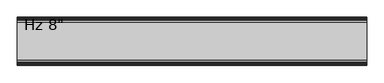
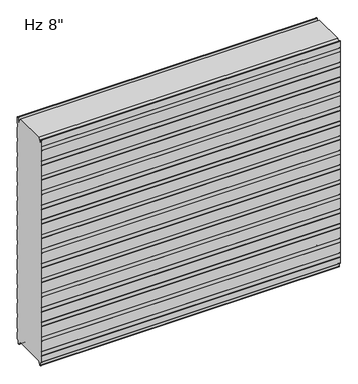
"""IFC4 building model written with IfcOpenShell, lengths in millimetres: plate geometry."""

from ifc_helpers import new_model, si_unit, frame, origin, place, context, project, spatial, polyline, circle_curve, source, transform, mapped, element, save
from ifc_brep_helpers import plane_surface, cylinder_surface, revolved_surface, advanced_brep


def plate_c6cde25f(model_context):
    return source(origin(), model_context, "Body", "AdvancedBrep", [
        advanced_brep(
        [(-730.0, -201.0088405, 1097.7830195), (-730.0, -201.0088405, 1117.5660142), (-730.0, -202.1999956, 1118.6385351), (-730.0, -202.1999956, 1150.8100652), (-730.0, -200.2227271, 1152.7873337), (-730.0, -199.1806285, 1152.7873337), (-730.0, -197.20336, 1150.8100652), (-730.0, -197.20336, 1136.6216802), (-730.0, -194.6154835, 1134.0338036), (-730.0, -190.2950653, 1134.0338036), (-730.0, -189.7060718, 1133.4253365), (-730.0, -189.7060718, 1131.0482432), (-730.0, -188.7065979, 1131.0482432), (-730.0, -188.7065979, 1136.4905123), (-730.0, -179.4490821, 1152.525), (-730.0, -23.7509179, 1152.525), (-730.0, -14.4934021, 1136.4905123), (-730.0, -14.4934021, 1131.0482432), (-730.0, -13.4939282, 1131.0482432), (-730.0, -13.4939282, 1133.4253365), (-730.0, -12.9049347, 1134.0338036), (-730.0, -8.5845165, 1134.0338036), (-730.0, -5.99664, 1136.6216802), (-730.0, -5.99664, 1150.8100652), (-730.0, -4.0193715, 1152.7873337), (-730.0, -2.9772729, 1152.7873337), (-730.0, -1.0000044, 1150.8100652), (-730.0, -1.0000044, 1118.6385351), (-730.0, -2.1911595, 1117.5660142), (-730.0, -2.1911595, 1097.7830195), (-730.0, -1.0, 1096.7104947), (-730.0, -1.0, 1043.0159187), (-730.0, -2.1911595, 1041.9433939), (-730.0, -2.1911595, 1022.1603992), (-730.0, -1.0, 1021.0878744), (-730.0, -1.0, 967.3932985), (-730.0, -2.1911595, 966.3207736), (-730.0, -2.1911595, 946.537779), (-730.0, -1.0, 945.4652541), (-730.0, -1.0, 891.7706782), (-730.0, -2.1911595, 890.6981534), (-730.0, -2.1911595, 870.9151587), (-730.0, -1.0, 869.8426339), (-730.0, -1.0, 816.148058), (-730.0, -2.1911595, 815.0755331), (-730.0, -2.1911595, 795.2925384), (-730.0, -1.0, 794.2200136), (-730.0, -1.0, 740.5254377), (-730.0, -2.1911595, 739.4529129), (-730.0, -2.1911595, 719.6699182), (-730.0, -1.0, 718.5973933), (-730.0, -1.0, 664.9028174), (-730.0, -2.1911595, 663.8302926), (-730.0, -2.1911595, 644.0472979), (-730.0, -1.0, 642.9747731), (-730.0, -1.0, 589.2801972), (-730.0, -2.1911595, 588.2076723), (-730.0, -2.1911595, 568.4246776), (-730.0, -1.0, 567.3521528), (-730.0, -1.0, 513.6575769), (-730.0, -2.1911595, 512.5850521), (-730.0, -2.1911595, 492.8020574), (-730.0, -1.0, 491.7295325), (-730.0, -1.0, 438.0349566), (-730.0, -2.1911595, 436.9624318), (-730.0, -2.1911595, 417.1794371), (-730.0, -1.0, 416.1069123), (-730.0, -1.0, 362.4123364), (-730.0, -2.1911595, 361.3398115), (-730.0, -2.1911595, 341.5568169), (-730.0, -1.0, 340.484292), (-730.0, -1.0, 286.7897161), (-730.0, -2.1911595, 285.7171913), (-730.0, -2.1911595, 265.9341966), (-730.0, -1.0, 264.8616718), (-730.0, -1.0, 211.1670958), (-730.0, -2.1911595, 210.094571), (-730.0, -2.1911595, 190.3115763), (-730.0, -1.0, 189.2390515), (-730.0, -1.0, 135.5444756), (-730.0, -2.1911595, 134.4719507), (-730.0, -2.1911595, 114.6889561), (-730.0, -1.0, 113.6164312), (-730.0, -1.0, 59.9218553), (-730.0, -2.1911595, 58.8493305), (-730.0, -2.1911595, 39.0663358), (-730.0, -1.0000109, 37.993811), (-730.0, -1.0000109, 5.8272239), (-730.0, -2.9772849, 3.8499499), (-730.0, -5.2691749, 3.8499499), (-730.0, -9.246442, -0.1273173), (-730.0, -9.246442, -15.7237417), (-730.0, -9.8343189, -16.3116186), (-730.0, -12.9058679, -16.3116186), (-730.0, -13.4937446, -15.723742), (-730.0, -13.4937446, -13.3687064), (-730.0, -14.4937446, -13.3687064), (-730.0, -14.4937446, -15.6582851), (-730.0, -23.7509179, 0.0), (-730.0, -179.4490865, 0.0), (-730.0, -188.7062554, -15.6582851), (-730.0, -188.7062554, -13.3687064), (-730.0, -189.7062554, -13.3687064), (-730.0, -189.7062554, -15.723742), (-730.0, -190.2941321, -16.3116186), (-730.0, -193.3656811, -16.3116186), (-730.0, -193.953558, -15.7237417), (-730.0, -193.953558, -0.1273173), (-730.0, -197.9308251, 3.8499499), (-730.0, -200.2227151, 3.8499499), (-730.0, -202.1999891, 5.8272239), (-730.0, -202.1999891, 37.993811), (-730.0, -201.0088405, 39.0663358), (-730.0, -201.0088405, 58.8493305), (-730.0, -202.2, 59.9218553), (-730.0, -202.2, 113.6164312), (-730.0, -201.0088405, 114.6889561), (-730.0, -201.0088405, 134.4719507), (-730.0, -202.2, 135.5444756), (-730.0, -202.2, 189.2390515), (-730.0, -201.0088405, 190.3115763), (-730.0, -201.0088405, 210.094571), (-730.0, -202.2, 211.1670958), (-730.0, -202.2, 264.8616718), (-730.0, -201.0088405, 265.9341966), (-730.0, -201.0088405, 285.7171913), (-730.0, -202.2, 286.7897161), (-730.0, -202.2, 340.484292), (-730.0, -201.0088405, 341.5568169), (-730.0, -201.0088405, 361.3398115), (-730.0, -202.2, 362.4123364), (-730.0, -202.2, 416.1069123), (-730.0, -201.0088405, 417.1794371), (-730.0, -201.0088405, 436.9624318), (-730.0, -202.2, 438.0349566), (-730.0, -202.2, 491.7295325), (-730.0, -201.0088405, 492.8020574), (-730.0, -201.0088405, 512.5850521), (-730.0, -202.2, 513.6575769), (-730.0, -202.2, 567.3521528), (-730.0, -201.0088405, 568.4246776), (-730.0, -201.0088405, 588.2076723), (-730.0, -202.2, 589.2801972), (-730.0, -202.2, 642.9747731), (-730.0, -201.0088405, 644.0472979), (-730.0, -201.0088405, 663.8302926), (-730.0, -202.2, 664.9028174), (-730.0, -202.2, 718.5973933), (-730.0, -201.0088405, 719.6699182), (-730.0, -201.0088405, 739.4529129), (-730.0, -202.2, 740.5254377), (-730.0, -202.2, 794.2200136), (-730.0, -201.0088405, 795.2925384), (-730.0, -201.0088405, 815.0755331), (-730.0, -202.2, 816.148058), (-730.0, -202.2, 869.8426339), (-730.0, -201.0088405, 870.9151587), (-730.0, -201.0088405, 890.6981534), (-730.0, -202.2, 891.7706782), (-730.0, -202.2, 945.4652541), (-730.0, -201.0088405, 946.537779), (-730.0, -201.0088405, 966.3207736), (-730.0, -202.2, 967.3932985), (-730.0, -202.2, 1021.0878744), (-730.0, -201.0088405, 1022.1603992), (-730.0, -201.0088405, 1041.9433939), (-730.0, -202.2, 1043.0159187), (-730.0, -202.2, 1096.7104947), (730.0, -201.0088405, 1097.7830195), (730.0, -202.2, 1096.7104947), (730.0, -202.2, 1043.0159187), (730.0, -201.0088405, 1041.9433939), (730.0, -201.0088405, 1022.1603992), (730.0, -202.2, 1021.0878744), (730.0, -202.2, 967.3932985), (730.0, -201.0088405, 966.3207736), (730.0, -201.0088405, 946.537779), (730.0, -202.2, 945.4652541), (730.0, -202.2, 891.7706782), (730.0, -201.0088405, 890.6981534), (730.0, -201.0088405, 870.9151587), (730.0, -202.2, 869.8426339), (730.0, -202.2, 816.148058), (730.0, -201.0088405, 815.0755331), (730.0, -201.0088405, 795.2925384), (730.0, -202.2, 794.2200136), (730.0, -202.2, 740.5254377), (730.0, -201.0088405, 739.4529129), (730.0, -201.0088405, 719.6699182), (730.0, -202.2, 718.5973933), (730.0, -202.2, 664.9028174), (730.0, -201.0088405, 663.8302926), (730.0, -201.0088405, 644.0472979), (730.0, -202.2, 642.9747731), (730.0, -202.2, 589.2801972), (730.0, -201.0088405, 588.2076723), (730.0, -201.0088405, 568.4246776), (730.0, -202.2, 567.3521528), (730.0, -202.2, 513.6575769), (730.0, -201.0088405, 512.5850521), (730.0, -201.0088405, 492.8020574), (730.0, -202.2, 491.7295325), (730.0, -202.2, 438.0349566), (730.0, -201.0088405, 436.9624318), (730.0, -201.0088405, 417.1794371), (730.0, -202.2, 416.1069123), (730.0, -202.2, 362.4123364), (730.0, -201.0088405, 361.3398115), (730.0, -201.0088405, 341.5568169), (730.0, -202.2, 340.484292), (730.0, -202.2, 286.7897161), (730.0, -201.0088405, 285.7171913), (730.0, -201.0088405, 265.9341966), (730.0, -202.2, 264.8616718), (730.0, -202.2, 211.1670958), (730.0, -201.0088405, 210.094571), (730.0, -201.0088405, 190.3115763), (730.0, -202.2, 189.2390515), (730.0, -202.2, 135.5444756), (730.0, -201.0088405, 134.4719507), (730.0, -201.0088405, 114.6889561), (730.0, -202.2, 113.6164312), (730.0, -202.2, 59.9218553), (730.0, -201.0088405, 58.8493305), (730.0, -201.0088405, 39.0663358), (730.0, -202.1999891, 37.993811), (730.0, -202.1999891, 5.8272239), (730.0, -200.2227151, 3.8499499), (730.0, -197.9308251, 3.8499499), (730.0, -193.953558, -0.1273173), (730.0, -193.953558, -15.7237417), (730.0, -193.3656811, -16.3116186), (730.0, -190.2941321, -16.3116186), (730.0, -189.7062554, -15.723742), (730.0, -189.7062554, -13.3687064), (730.0, -188.7062554, -13.3687064), (730.0, -188.7062554, -15.6582851), (730.0, -179.4490821, 0.0), (730.0, -23.7509179, 0.0), (730.0, -14.4937446, -15.6582851), (730.0, -14.4937446, -13.3687064), (730.0, -13.4937446, -13.3687064), (730.0, -13.4937446, -15.723742), (730.0, -12.9058679, -16.3116186), (730.0, -9.8343189, -16.3116186), (730.0, -9.246442, -15.7237417), (730.0, -9.246442, -0.1273173), (730.0, -5.2691749, 3.8499499), (730.0, -2.9772849, 3.8499499), (730.0, -1.0000109, 5.8272239), (730.0, -1.0000109, 37.993811), (730.0, -2.1911595, 39.0663358), (730.0, -2.1911595, 58.8493305), (730.0, -1.0, 59.9218553), (730.0, -1.0, 113.6164312), (730.0, -2.1911595, 114.6889561), (730.0, -2.1911595, 134.4719507), (730.0, -1.0, 135.5444756), (730.0, -1.0, 189.2390515), (730.0, -2.1911595, 190.3115763), (730.0, -2.1911595, 210.094571), (730.0, -1.0, 211.1670958), (730.0, -1.0, 264.8616718), (730.0, -2.1911595, 265.9341966), (730.0, -2.1911595, 285.7171913), (730.0, -1.0, 286.7897161), (730.0, -1.0, 340.484292), (730.0, -2.1911595, 341.5568169), (730.0, -2.1911595, 361.3398115), (730.0, -1.0, 362.4123364), (730.0, -1.0, 416.1069123), (730.0, -2.1911595, 417.1794371), (730.0, -2.1911595, 436.9624318), (730.0, -1.0, 438.0349566), (730.0, -1.0, 491.7295325), (730.0, -2.1911595, 492.8020574), (730.0, -2.1911595, 512.5850521), (730.0, -1.0, 513.6575769), (730.0, -1.0, 567.3521528), (730.0, -2.1911595, 568.4246776), (730.0, -2.1911595, 588.2076723), (730.0, -1.0, 589.2801972), (730.0, -1.0, 642.9747731), (730.0, -2.1911595, 644.0472979), (730.0, -2.1911595, 663.8302926), (730.0, -1.0, 664.9028174), (730.0, -1.0, 718.5973933), (730.0, -2.1911595, 719.6699182), (730.0, -2.1911595, 739.4529129), (730.0, -1.0, 740.5254377), (730.0, -1.0, 794.2200136), (730.0, -2.1911595, 795.2925384), (730.0, -2.1911595, 815.0755331), (730.0, -1.0, 816.148058), (730.0, -1.0, 869.8426339), (730.0, -2.1911595, 870.9151587), (730.0, -2.1911595, 890.6981534), (730.0, -1.0, 891.7706782), (730.0, -1.0, 945.4652541), (730.0, -2.1911595, 946.537779), (730.0, -2.1911595, 966.3207736), (730.0, -1.0, 967.3932985), (730.0, -1.0, 1021.0878744), (730.0, -2.1911595, 1022.1603992), (730.0, -2.1911595, 1041.9433939), (730.0, -1.0, 1043.0159187), (730.0, -1.0, 1096.7104947), (730.0, -2.1911595, 1097.7830195), (730.0, -2.1911595, 1117.5660142), (730.0, -1.0000044, 1118.6385351), (730.0, -1.0000044, 1150.8100652), (730.0, -2.9772729, 1152.7873337), (730.0, -4.0193715, 1152.7873337), (730.0, -5.99664, 1150.8100652), (730.0, -5.99664, 1136.6216802), (730.0, -8.5845165, 1134.0338036), (730.0, -12.9049347, 1134.0338036), (730.0, -13.4939282, 1133.4253365), (730.0, -13.4939282, 1131.0482432), (730.0, -14.4934021, 1131.0482432), (730.0, -14.4934021, 1136.4905123), (730.0, -23.7509179, 1152.525), (730.0, -179.4490865, 1152.525), (730.0, -188.7065979, 1136.4905123), (730.0, -188.7065979, 1131.0482432), (730.0, -189.7060718, 1131.0482432), (730.0, -189.7060718, 1133.4253365), (730.0, -190.2950653, 1134.0338036), (730.0, -194.6154835, 1134.0338036), (730.0, -197.20336, 1136.6216802), (730.0, -197.20336, 1150.8100652), (730.0, -199.1806285, 1152.7873337), (730.0, -200.2227271, 1152.7873337), (730.0, -202.1999956, 1150.8100652), (730.0, -202.1999956, 1118.6385351), (730.0, -201.0088405, 1117.5660142)],
        [
            (0, 1),
            (1, 2),
            (2, 3),
            (3, 4, circle_curve(frame((-730.0, -200.2227271, 1150.8100652), z_axis=(-1.0, 0.0, 0.0), x_axis=(0.0, 0.0, -1.0)), 1.9772685)),
            (4, 5),
            (5, 6, circle_curve(frame((-730.0, -199.1806285, 1150.8100652), z_axis=(-1.0, 0.0, 0.0), x_axis=(0.0, 0.0, -1.0)), 1.9772685)),
            (6, 7),
            (7, 8, circle_curve(frame((-730.0, -194.6154835, 1136.6216802), z_axis=(1.0, 0.0, 0.0), x_axis=(0.0, 0.0, -1.0)), 2.5878765)),
            (8, 9),
            (9, 10, circle_curve(frame((-730.0, -190.2950653, 1133.4444985), z_axis=(-1.0, 0.0, 0.0), x_axis=(0.0, 0.0, -1.0)), 0.5893051)),
            (10, 11),
            (11, 12),
            (12, 13),
            (13, 14),
            (14, 15),
            (15, 16),
            (16, 17),
            (17, 18),
            (18, 19),
            (19, 20, circle_curve(frame((-730.0, -12.9049347, 1133.4444985), z_axis=(-1.0, 0.0, 0.0), x_axis=(0.0, 1.0, 0.0)), 0.5893051)),
            (20, 21),
            (21, 22, circle_curve(frame((-730.0, -8.5845165, 1136.6216802), z_axis=(1.0, 0.0, 0.0), x_axis=(0.0, 1.0, 0.0)), 2.5878765)),
            (22, 23),
            (23, 24, circle_curve(frame((-730.0, -4.0193715, 1150.8100652), z_axis=(-1.0, 0.0, 0.0), x_axis=(0.0, 1.0, 0.0)), 1.9772685)),
            (24, 25),
            (25, 26, circle_curve(frame((-730.0, -2.9772729, 1150.8100652), z_axis=(-1.0, 0.0, 0.0), x_axis=(0.0, 1.0, 0.0)), 1.9772685)),
            (26, 27),
            (27, 28),
            (28, 29),
            (29, 30),
            (30, 31),
            (31, 32),
            (32, 33),
            (33, 34),
            (34, 35),
            (35, 36),
            (36, 37),
            (37, 38),
            (38, 39),
            (39, 40),
            (40, 41),
            (41, 42),
            (42, 43),
            (43, 44),
            (44, 45),
            (45, 46),
            (46, 47),
            (47, 48),
            (48, 49),
            (49, 50),
            (50, 51),
            (51, 52),
            (52, 53),
            (53, 54),
            (54, 55),
            (55, 56),
            (56, 57),
            (57, 58),
            (58, 59),
            (59, 60),
            (60, 61),
            (61, 62),
            (62, 63),
            (63, 64),
            (64, 65),
            (65, 66),
            (66, 67),
            (67, 68),
            (68, 69),
            (69, 70),
            (70, 71),
            (71, 72),
            (72, 73),
            (73, 74),
            (74, 75),
            (75, 76),
            (76, 77),
            (77, 78),
            (78, 79),
            (79, 80),
            (80, 81),
            (81, 82),
            (82, 83),
            (83, 84),
            (84, 85),
            (85, 86),
            (86, 87),
            (87, 88, circle_curve(frame((-730.0, -2.9772849, 5.8272239), z_axis=(-1.0, 0.0, 0.0), x_axis=(0.0, 1.0, 0.0)), 1.977274)),
            (88, 89),
            (89, 90, circle_curve(frame((-730.0, -5.2691749, -0.1273173), z_axis=(1.0, 0.0, 0.0), x_axis=(0.0, 1.0, 0.0)), 3.9772671)),
            (90, 91),
            (91, 92, circle_curve(frame((-730.0, -9.8343189, -15.7237417), z_axis=(-1.0, 0.0, 0.0), x_axis=(0.0, 1.0, 0.0)), 0.5878769)),
            (92, 93),
            (93, 94, circle_curve(frame((-730.0, -12.9058679, -15.723742), z_axis=(-1.0, 0.0, 0.0), x_axis=(0.0, 1.0, 0.0)), 0.5878766)),
            (94, 95),
            (95, 96),
            (96, 97),
            (97, 98),
            (98, 99),
            (99, 100),
            (100, 101),
            (101, 102),
            (102, 103),
            (103, 104, circle_curve(frame((-730.0, -190.2941321, -15.723742), z_axis=(-1.0, 0.0, 0.0), x_axis=(0.0, 0.0, -1.0)), 0.5878766)),
            (104, 105),
            (105, 106, circle_curve(frame((-730.0, -193.3656811, -15.7237417), z_axis=(-1.0, 0.0, 0.0), x_axis=(0.0, 0.0, -1.0)), 0.5878769)),
            (106, 107),
            (107, 108, circle_curve(frame((-730.0, -197.9308251, -0.1273173), z_axis=(1.0, 0.0, 0.0), x_axis=(0.0, 0.0, -1.0)), 3.9772671)),
            (108, 109),
            (109, 110, circle_curve(frame((-730.0, -200.2227151, 5.8272239), z_axis=(-1.0, 0.0, 0.0), x_axis=(0.0, 0.0, -1.0)), 1.977274)),
            (110, 111),
            (111, 112),
            (112, 113),
            (113, 114),
            (114, 115),
            (115, 116),
            (116, 117),
            (117, 118),
            (118, 119),
            (119, 120),
            (120, 121),
            (121, 122),
            (122, 123),
            (123, 124),
            (124, 125),
            (125, 126),
            (126, 127),
            (127, 128),
            (128, 129),
            (129, 130),
            (130, 131),
            (131, 132),
            (132, 133),
            (133, 134),
            (134, 135),
            (135, 136),
            (136, 137),
            (137, 138),
            (138, 139),
            (139, 140),
            (140, 141),
            (141, 142),
            (142, 143),
            (143, 144),
            (144, 145),
            (145, 146),
            (146, 147),
            (147, 148),
            (148, 149),
            (149, 150),
            (150, 151),
            (151, 152),
            (152, 153),
            (153, 154),
            (154, 155),
            (155, 156),
            (156, 157),
            (157, 158),
            (158, 159),
            (159, 160),
            (160, 161),
            (161, 162),
            (162, 163),
            (163, 164),
            (164, 165),
            (165, 166),
            (166, 167),
            (167, 0),
            (168, 169),
            (169, 170),
            (170, 171),
            (171, 172),
            (172, 173),
            (173, 174),
            (174, 175),
            (175, 176),
            (176, 177),
            (177, 178),
            (178, 179),
            (179, 180),
            (180, 181),
            (181, 182),
            (182, 183),
            (183, 184),
            (184, 185),
            (185, 186),
            (186, 187),
            (187, 188),
            (188, 189),
            (189, 190),
            (190, 191),
            (191, 192),
            (192, 193),
            (193, 194),
            (194, 195),
            (195, 196),
            (196, 197),
            (197, 198),
            (198, 199),
            (199, 200),
            (200, 201),
            (201, 202),
            (202, 203),
            (203, 204),
            (204, 205),
            (205, 206),
            (206, 207),
            (207, 208),
            (208, 209),
            (209, 210),
            (210, 211),
            (211, 212),
            (212, 213),
            (213, 214),
            (214, 215),
            (215, 216),
            (216, 217),
            (217, 218),
            (218, 219),
            (219, 220),
            (220, 221),
            (221, 222),
            (222, 223),
            (223, 224),
            (224, 225),
            (225, 226),
            (226, 227, circle_curve(frame((730.0, -200.2227151, 5.8272239), z_axis=(1.0, 0.0, 0.0), x_axis=(0.0, 0.0, -1.0)), 1.977274)),
            (227, 228),
            (228, 229, circle_curve(frame((730.0, -197.9308251, -0.1273173), z_axis=(-1.0, 0.0, 0.0), x_axis=(0.0, 0.0, -1.0)), 3.9772671)),
            (229, 230),
            (230, 231, circle_curve(frame((730.0, -193.3656811, -15.7237417), z_axis=(1.0, 0.0, 0.0), x_axis=(0.0, 0.0, -1.0)), 0.5878769)),
            (231, 232),
            (232, 233, circle_curve(frame((730.0, -190.2941321, -15.723742), z_axis=(1.0, 0.0, 0.0), x_axis=(0.0, 0.0, -1.0)), 0.5878766)),
            (233, 234),
            (234, 235),
            (235, 236),
            (236, 237),
            (237, 238),
            (238, 239),
            (239, 240),
            (240, 241),
            (241, 242),
            (242, 243, circle_curve(frame((730.0, -12.9058679, -15.723742), z_axis=(1.0, 0.0, 0.0), x_axis=(0.0, 1.0, 0.0)), 0.5878766)),
            (243, 244),
            (244, 245, circle_curve(frame((730.0, -9.8343189, -15.7237417), z_axis=(1.0, 0.0, 0.0), x_axis=(0.0, 1.0, 0.0)), 0.5878769)),
            (245, 246),
            (246, 247, circle_curve(frame((730.0, -5.2691749, -0.1273173), z_axis=(-1.0, 0.0, 0.0), x_axis=(0.0, 1.0, 0.0)), 3.9772671)),
            (247, 248),
            (248, 249, circle_curve(frame((730.0, -2.9772849, 5.8272239), z_axis=(1.0, 0.0, 0.0), x_axis=(0.0, 1.0, 0.0)), 1.977274)),
            (249, 250),
            (250, 251),
            (251, 252),
            (252, 253),
            (253, 254),
            (254, 255),
            (255, 256),
            (256, 257),
            (257, 258),
            (258, 259),
            (259, 260),
            (260, 261),
            (261, 262),
            (262, 263),
            (263, 264),
            (264, 265),
            (265, 266),
            (266, 267),
            (267, 268),
            (268, 269),
            (269, 270),
            (270, 271),
            (271, 272),
            (272, 273),
            (273, 274),
            (274, 275),
            (275, 276),
            (276, 277),
            (277, 278),
            (278, 279),
            (279, 280),
            (280, 281),
            (281, 282),
            (282, 283),
            (283, 284),
            (284, 285),
            (285, 286),
            (286, 287),
            (287, 288),
            (288, 289),
            (289, 290),
            (290, 291),
            (291, 292),
            (292, 293),
            (293, 294),
            (294, 295),
            (295, 296),
            (296, 297),
            (297, 298),
            (298, 299),
            (299, 300),
            (300, 301),
            (301, 302),
            (302, 303),
            (303, 304),
            (304, 305),
            (305, 306),
            (306, 307),
            (307, 308),
            (308, 309),
            (309, 310),
            (310, 311, circle_curve(frame((730.0, -2.9772729, 1150.8100652), z_axis=(1.0, 0.0, 0.0), x_axis=(0.0, 1.0, 0.0)), 1.9772685)),
            (311, 312),
            (312, 313, circle_curve(frame((730.0, -4.0193715, 1150.8100652), z_axis=(1.0, 0.0, 0.0), x_axis=(0.0, 1.0, 0.0)), 1.9772685)),
            (313, 314),
            (314, 315, circle_curve(frame((730.0, -8.5845165, 1136.6216802), z_axis=(-1.0, 0.0, 0.0), x_axis=(0.0, 1.0, 0.0)), 2.5878765)),
            (315, 316),
            (316, 317, circle_curve(frame((730.0, -12.9049347, 1133.4444985), z_axis=(1.0, 0.0, 0.0), x_axis=(0.0, 1.0, 0.0)), 0.5893051)),
            (317, 318),
            (318, 319),
            (319, 320),
            (320, 321),
            (321, 322),
            (322, 323),
            (323, 324),
            (324, 325),
            (325, 326),
            (326, 327, circle_curve(frame((730.0, -190.2950653, 1133.4444985), z_axis=(1.0, 0.0, 0.0), x_axis=(0.0, 0.0, -1.0)), 0.5893051)),
            (327, 328),
            (328, 329, circle_curve(frame((730.0, -194.6154835, 1136.6216802), z_axis=(-1.0, 0.0, 0.0), x_axis=(0.0, 0.0, -1.0)), 2.5878765)),
            (329, 330),
            (330, 331, circle_curve(frame((730.0, -199.1806285, 1150.8100652), z_axis=(1.0, 0.0, 0.0), x_axis=(0.0, 0.0, -1.0)), 1.9772685)),
            (331, 332),
            (332, 333, circle_curve(frame((730.0, -200.2227271, 1150.8100652), z_axis=(1.0, 0.0, 0.0), x_axis=(0.0, 0.0, -1.0)), 1.9772685)),
            (333, 334),
            (334, 335),
            (335, 168),
            (28, 308),
            (307, 29),
            (27, 309),
            (26, 310),
            (25, 311),
            (24, 312),
            (23, 313),
            (22, 314),
            (21, 315),
            (20, 316),
            (19, 317),
            (18, 318),
            (17, 319),
            (16, 320),
            (15, 321),
            (97, 239),
            (238, 98),
            (96, 240),
            (95, 241),
            (94, 242),
            (93, 243),
            (92, 244),
            (91, 245),
            (90, 246),
            (89, 247),
            (88, 248),
            (87, 249),
            (86, 250),
            (85, 251),
            (84, 252),
            (83, 253),
            (82, 254),
            (81, 255),
            (80, 256),
            (79, 257),
            (78, 258),
            (77, 259),
            (76, 260),
            (75, 261),
            (74, 262),
            (73, 263),
            (72, 264),
            (71, 265),
            (70, 266),
            (69, 267),
            (68, 268),
            (67, 269),
            (66, 270),
            (65, 271),
            (64, 272),
            (63, 273),
            (62, 274),
            (61, 275),
            (60, 276),
            (59, 277),
            (58, 278),
            (57, 279),
            (56, 280),
            (55, 281),
            (54, 282),
            (53, 283),
            (52, 284),
            (51, 285),
            (50, 286),
            (49, 287),
            (48, 288),
            (47, 289),
            (46, 290),
            (45, 291),
            (44, 292),
            (43, 293),
            (42, 294),
            (41, 295),
            (40, 296),
            (39, 297),
            (38, 298),
            (37, 299),
            (36, 300),
            (35, 301),
            (34, 302),
            (33, 303),
            (32, 304),
            (31, 305),
            (30, 306),
            (14, 322),
            (237, 99),
            (167, 169),
            (168, 0),
            (166, 170),
            (165, 171),
            (164, 172),
            (163, 173),
            (162, 174),
            (161, 175),
            (160, 176),
            (159, 177),
            (158, 178),
            (157, 179),
            (156, 180),
            (155, 181),
            (154, 182),
            (153, 183),
            (152, 184),
            (151, 185),
            (150, 186),
            (149, 187),
            (148, 188),
            (147, 189),
            (146, 190),
            (145, 191),
            (144, 192),
            (143, 193),
            (142, 194),
            (141, 195),
            (140, 196),
            (139, 197),
            (138, 198),
            (137, 199),
            (136, 200),
            (135, 201),
            (134, 202),
            (133, 203),
            (132, 204),
            (131, 205),
            (130, 206),
            (129, 207),
            (128, 208),
            (127, 209),
            (126, 210),
            (125, 211),
            (124, 212),
            (123, 213),
            (122, 214),
            (121, 215),
            (120, 216),
            (119, 217),
            (118, 218),
            (117, 219),
            (116, 220),
            (115, 221),
            (114, 222),
            (113, 223),
            (112, 224),
            (111, 225),
            (110, 226),
            (109, 227),
            (108, 228),
            (107, 229),
            (106, 230),
            (105, 231),
            (104, 232),
            (103, 233),
            (102, 234),
            (101, 235),
            (100, 236),
            (13, 323),
            (12, 324),
            (11, 325),
            (10, 326),
            (9, 327),
            (8, 328),
            (7, 329),
            (6, 330),
            (5, 331),
            (4, 332),
            (3, 333),
            (2, 334),
            (1, 335),
        ],
        [
            plane_surface(frame((-730.0, -202.2, 576.2625), z_axis=(-1.0, 0.0, 0.0), x_axis=(0.0, -1.0, 0.0))),
            plane_surface(frame((730.0, -202.2, 576.2625), z_axis=(1.0, 0.0, 0.0), x_axis=(0.0, -1.0, 0.0))),
            plane_surface(frame((-730.0, -2.1911595, 1097.7830195), z_axis=(0.0, 1.0, 0.0), x_axis=(1.0, 0.0, 0.0))),
            plane_surface(frame((-730.0, -2.1911595, 1117.5660142), z_axis=(0.0, 0.669130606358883, -0.7431448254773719), x_axis=(1.0, 0.0, 0.0))),
            plane_surface(frame((-730.0, -1.0000044, 1118.6385351), z_axis=(0.0, 1.0, 0.0), x_axis=(1.0, 0.0, 0.0))),
            cylinder_surface(frame((-730.0, -2.9772729, 1150.8100652), z_axis=(-1.0, 0.0, 0.0), x_axis=(0.0, 1.0, 0.0)), 1.9772685),
            plane_surface(frame((-730.0, -2.9772729, 1152.7873337), z_axis=(0.0, 0.0, 1.0), x_axis=(1.0, 0.0, 0.0))),
            cylinder_surface(frame((-730.0, -4.0193715, 1150.8100652), z_axis=(-1.0, 0.0, 0.0), x_axis=(0.0, 1.0, 0.0)), 1.9772685),
            plane_surface(frame((-730.0, -5.99664, 1150.8100652), z_axis=(0.0, -1.0, 0.0), x_axis=(1.0, 0.0, 0.0))),
            revolved_surface(polyline([(730.0, -5.996639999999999, 1136.6216802), (-730.0, -5.996639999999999, 1136.6216802)]), (-730.0, -8.5845165, 1136.6216802), (1.0, 0.0, 0.0)),
            plane_surface(frame((-730.0, -8.5845165, 1134.0338036), z_axis=(0.0, 0.0, 1.0), x_axis=(1.0, 0.0, 0.0))),
            cylinder_surface(frame((-730.0, -12.9049347, 1133.4444985), z_axis=(-1.0, 0.0, 0.0), x_axis=(0.0, 1.0, 0.0)), 0.5893051),
            plane_surface(frame((-730.0, -13.4939282, 1133.4253365), z_axis=(0.0, -1.0, 0.0), x_axis=(1.0, 0.0, 0.0))),
            plane_surface(frame((-730.0, -13.4939282, 1131.0482432), z_axis=(0.0, 0.0, 1.0), x_axis=(1.0, 0.0, 0.0))),
            plane_surface(frame((-730.0, -14.4934021, 1131.0482432), z_axis=(0.0, 1.0, 0.0), x_axis=(1.0, 0.0, 0.0))),
            plane_surface(frame((-730.0, -14.4934021, 1136.4905123), z_axis=(0.0, 0.8660254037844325, 0.5000000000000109), x_axis=(1.0, 0.0, 0.0))),
            plane_surface(frame((-730.0, -23.7509179, 0.0), z_axis=(0.0, -0.8608169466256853, -0.5089147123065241), x_axis=(1.0, 0.0, 0.0))),
            plane_surface(frame((-730.0, -14.4937446, -15.6582851), z_axis=(0.0, 1.0, 0.0), x_axis=(1.0, 0.0, 0.0))),
            plane_surface(frame((-730.0, -14.4937446, -13.3687064), z_axis=(0.0, 0.0, -1.0), x_axis=(1.0, 0.0, 0.0))),
            plane_surface(frame((-730.0, -13.4937446, -13.3687064), z_axis=(0.0, -1.0, 0.0), x_axis=(1.0, 0.0, 0.0))),
            cylinder_surface(frame((-730.0, -12.9058679, -15.723742), z_axis=(-1.0, 0.0, 0.0), x_axis=(0.0, 1.0, 0.0)), 0.5878766),
            plane_surface(frame((-730.0, -12.9058679, -16.3116186), z_axis=(0.0, 0.0, -1.0), x_axis=(1.0, 0.0, 0.0))),
            cylinder_surface(frame((-730.0, -9.8343189, -15.7237417), z_axis=(-1.0, 0.0, 0.0), x_axis=(0.0, 1.0, 0.0)), 0.5878769),
            plane_surface(frame((-730.0, -9.246442, -15.7237417), z_axis=(0.0, 1.0, 0.0), x_axis=(1.0, 0.0, 0.0))),
            revolved_surface(polyline([(730.0, -1.2919078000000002, -0.1273173), (-730.0, -1.2919078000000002, -0.1273173)]), (-730.0, -5.2691749, -0.1273173), (1.0, 0.0, 0.0)),
            plane_surface(frame((-730.0, -5.2691749, 3.8499499), z_axis=(0.0, 0.0, -1.0), x_axis=(1.0, 0.0, 0.0))),
            cylinder_surface(frame((-730.0, -2.9772849, 5.8272239), z_axis=(-1.0, 0.0, 0.0), x_axis=(0.0, 1.0, 0.0)), 1.977274),
            plane_surface(frame((-730.0, -1.0000109, 5.8272239), z_axis=(0.0, 1.0, 0.0), x_axis=(1.0, 0.0, 0.0))),
            plane_surface(frame((-730.0, -1.0000109, 37.993811), z_axis=(0.0, 0.6691339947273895, 0.7431417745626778), x_axis=(1.0, 0.0, 0.0))),
            plane_surface(frame((-730.0, -2.1911595, 39.0663358), z_axis=(0.0, 1.0, 0.0), x_axis=(1.0, 0.0, 0.0))),
            plane_surface(frame((-730.0, -2.1911595, 58.8493305), z_axis=(0.0, 0.6691306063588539, -0.7431448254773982), x_axis=(1.0, 0.0, 0.0))),
            plane_surface(frame((-730.0, -1.0, 59.9218553), z_axis=(0.0, 1.0, 0.0), x_axis=(1.0, 0.0, 0.0))),
            plane_surface(frame((-730.0, -1.0, 113.6164312), z_axis=(0.0, 0.6691306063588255, 0.7431448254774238), x_axis=(1.0, 0.0, 0.0))),
            plane_surface(frame((-730.0, -2.1911595, 114.6889561), z_axis=(0.0, 1.0, 0.0), x_axis=(1.0, 0.0, 0.0))),
            plane_surface(frame((-730.0, -2.1911595, 134.4719507), z_axis=(0.0, 0.6691306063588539, -0.7431448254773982), x_axis=(1.0, 0.0, 0.0))),
            plane_surface(frame((-730.0, -1.0, 135.5444756), z_axis=(0.0, 1.0, 0.0), x_axis=(1.0, 0.0, 0.0))),
            plane_surface(frame((-730.0, -1.0, 189.2390515), z_axis=(0.0, 0.669130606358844, 0.743144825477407), x_axis=(1.0, 0.0, 0.0))),
            plane_surface(frame((-730.0, -2.1911595, 190.3115763), z_axis=(0.0, 1.0, 0.0), x_axis=(1.0, 0.0, 0.0))),
            plane_surface(frame((-730.0, -2.1911595, 210.094571), z_axis=(0.0, 0.6691306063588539, -0.7431448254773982), x_axis=(1.0, 0.0, 0.0))),
            plane_surface(frame((-730.0, -1.0, 211.1670958), z_axis=(0.0, 1.0, 0.0), x_axis=(1.0, 0.0, 0.0))),
            plane_surface(frame((-730.0, -1.0, 264.8616718), z_axis=(0.0, 0.6691306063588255, 0.7431448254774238), x_axis=(1.0, 0.0, 0.0))),
            plane_surface(frame((-730.0, -2.1911595, 265.9341966), z_axis=(0.0, 1.0, 0.0), x_axis=(1.0, 0.0, 0.0))),
            plane_surface(frame((-730.0, -2.1911595, 285.7171913), z_axis=(0.0, 0.6691306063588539, -0.7431448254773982), x_axis=(1.0, 0.0, 0.0))),
            plane_surface(frame((-730.0, -1.0, 286.7897161), z_axis=(0.0, 1.0, 0.0), x_axis=(1.0, 0.0, 0.0))),
            plane_surface(frame((-730.0, -1.0, 340.484292), z_axis=(0.0, 0.669130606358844, 0.743144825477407), x_axis=(1.0, 0.0, 0.0))),
            plane_surface(frame((-730.0, -2.1911595, 341.5568169), z_axis=(0.0, 1.0, 0.0), x_axis=(1.0, 0.0, 0.0))),
            plane_surface(frame((-730.0, -2.1911595, 361.3398115), z_axis=(0.0, 0.6691306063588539, -0.7431448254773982), x_axis=(1.0, 0.0, 0.0))),
            plane_surface(frame((-730.0, -1.0, 362.4123364), z_axis=(0.0, 1.0, 0.0), x_axis=(1.0, 0.0, 0.0))),
            plane_surface(frame((-730.0, -1.0, 416.1069123), z_axis=(0.0, 0.669130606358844, 0.743144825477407), x_axis=(1.0, 0.0, 0.0))),
            plane_surface(frame((-730.0, -2.1911595, 417.1794371), z_axis=(0.0, 1.0, 0.0), x_axis=(1.0, 0.0, 0.0))),
            plane_surface(frame((-730.0, -2.1911595, 436.9624318), z_axis=(0.0, 0.6691306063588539, -0.7431448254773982), x_axis=(1.0, 0.0, 0.0))),
            plane_surface(frame((-730.0, -1.0, 438.0349566), z_axis=(0.0, 1.0, 0.0), x_axis=(1.0, 0.0, 0.0))),
            plane_surface(frame((-730.0, -1.0, 491.7295325), z_axis=(0.0, 0.6691306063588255, 0.7431448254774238), x_axis=(1.0, 0.0, 0.0))),
            plane_surface(frame((-730.0, -2.1911595, 492.8020574), z_axis=(0.0, 1.0, 0.0), x_axis=(1.0, 0.0, 0.0))),
            plane_surface(frame((-730.0, -2.1911595, 512.5850521), z_axis=(0.0, 0.6691306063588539, -0.7431448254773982), x_axis=(1.0, 0.0, 0.0))),
            plane_surface(frame((-730.0, -1.0, 513.6575769), z_axis=(0.0, 1.0, 0.0), x_axis=(1.0, 0.0, 0.0))),
            plane_surface(frame((-730.0, -1.0, 567.3521528), z_axis=(0.0, 0.669130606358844, 0.743144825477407), x_axis=(1.0, 0.0, 0.0))),
            plane_surface(frame((-730.0, -2.1911595, 568.4246776), z_axis=(0.0, 1.0, 0.0), x_axis=(1.0, 0.0, 0.0))),
            plane_surface(frame((-730.0, -2.1911595, 588.2076723), z_axis=(0.0, 0.6691306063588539, -0.7431448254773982), x_axis=(1.0, 0.0, 0.0))),
            plane_surface(frame((-730.0, -1.0, 589.2801972), z_axis=(0.0, 1.0, 0.0), x_axis=(1.0, 0.0, 0.0))),
            plane_surface(frame((-730.0, -1.0, 642.9747731), z_axis=(0.0, 0.6691306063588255, 0.7431448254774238), x_axis=(1.0, 0.0, 0.0))),
            plane_surface(frame((-730.0, -2.1911595, 644.0472979), z_axis=(0.0, 1.0, 0.0), x_axis=(1.0, 0.0, 0.0))),
            plane_surface(frame((-730.0, -2.1911595, 663.8302926), z_axis=(0.0, 0.6691306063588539, -0.7431448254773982), x_axis=(1.0, 0.0, 0.0))),
            plane_surface(frame((-730.0, -1.0, 664.9028174), z_axis=(0.0, 1.0, 0.0), x_axis=(1.0, 0.0, 0.0))),
            plane_surface(frame((-730.0, -1.0, 718.5973933), z_axis=(0.0, 0.669130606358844, 0.743144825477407), x_axis=(1.0, 0.0, 0.0))),
            plane_surface(frame((-730.0, -2.1911595, 719.6699182), z_axis=(0.0, 1.0, 0.0), x_axis=(1.0, 0.0, 0.0))),
            plane_surface(frame((-730.0, -2.1911595, 739.4529129), z_axis=(0.0, 0.6691306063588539, -0.7431448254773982), x_axis=(1.0, 0.0, 0.0))),
            plane_surface(frame((-730.0, -1.0, 740.5254377), z_axis=(0.0, 1.0, 0.0), x_axis=(1.0, 0.0, 0.0))),
            plane_surface(frame((-730.0, -1.0, 794.2200136), z_axis=(0.0, 0.6691306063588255, 0.7431448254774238), x_axis=(1.0, 0.0, 0.0))),
            plane_surface(frame((-730.0, -2.1911595, 795.2925384), z_axis=(0.0, 1.0, 0.0), x_axis=(1.0, 0.0, 0.0))),
            plane_surface(frame((-730.0, -2.1911595, 815.0755331), z_axis=(0.0, 0.6691306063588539, -0.7431448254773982), x_axis=(1.0, 0.0, 0.0))),
            plane_surface(frame((-730.0, -1.0, 816.148058), z_axis=(0.0, 1.0, 0.0), x_axis=(1.0, 0.0, 0.0))),
            plane_surface(frame((-730.0, -1.0, 869.8426339), z_axis=(0.0, 0.669130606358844, 0.743144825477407), x_axis=(1.0, 0.0, 0.0))),
            plane_surface(frame((-730.0, -2.1911595, 870.9151587), z_axis=(0.0, 1.0, 0.0), x_axis=(1.0, 0.0, 0.0))),
            plane_surface(frame((-730.0, -2.1911595, 890.6981534), z_axis=(0.0, 0.6691306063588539, -0.7431448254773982), x_axis=(1.0, 0.0, 0.0))),
            plane_surface(frame((-730.0, -1.0, 891.7706782), z_axis=(0.0, 1.0, 0.0), x_axis=(1.0, 0.0, 0.0))),
            plane_surface(frame((-730.0, -1.0, 945.4652541), z_axis=(0.0, 0.669130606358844, 0.743144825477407), x_axis=(1.0, 0.0, 0.0))),
            plane_surface(frame((-730.0, -2.1911595, 946.537779), z_axis=(0.0, 1.0, 0.0), x_axis=(1.0, 0.0, 0.0))),
            plane_surface(frame((-730.0, -2.1911595, 966.3207736), z_axis=(0.0, 0.6691306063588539, -0.7431448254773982), x_axis=(1.0, 0.0, 0.0))),
            plane_surface(frame((-730.0, -1.0, 967.3932985), z_axis=(0.0, 1.0, 0.0), x_axis=(1.0, 0.0, 0.0))),
            plane_surface(frame((-730.0, -1.0, 1021.0878744), z_axis=(0.0, 0.669130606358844, 0.743144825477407), x_axis=(1.0, 0.0, 0.0))),
            plane_surface(frame((-730.0, -2.1911595, 1022.1603992), z_axis=(0.0, 1.0, 0.0), x_axis=(1.0, 0.0, 0.0))),
            plane_surface(frame((-730.0, -2.1911595, 1041.9433939), z_axis=(0.0, 0.6691306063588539, -0.7431448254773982), x_axis=(1.0, 0.0, 0.0))),
            plane_surface(frame((-730.0, -1.0, 1043.0159187), z_axis=(0.0, 1.0, 0.0), x_axis=(1.0, 0.0, 0.0))),
            plane_surface(frame((-730.0, -1.0, 1096.7104947), z_axis=(0.0, 0.669130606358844, 0.743144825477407), x_axis=(1.0, 0.0, 0.0))),
            plane_surface(frame((-730.0, -179.4490865, 1152.525), z_axis=(0.0, 0.0, 1.0), x_axis=(-1.0, 0.0, 0.0))),
            plane_surface(frame((-730.0, -179.4490865, 0.0), z_axis=(0.0, 0.0, -1.0), x_axis=(1.0, 0.0, 0.0))),
            plane_surface(frame((-730.0, -201.0088405, 1097.7830195), z_axis=(0.0, -0.6691306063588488, 0.7431448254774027), x_axis=(1.0, 0.0, 0.0))),
            plane_surface(frame((-730.0, -202.2, 1096.7104947), z_axis=(0.0, -1.0, 0.0), x_axis=(1.0, 0.0, 0.0))),
            plane_surface(frame((-730.0, -202.2, 1043.0159187), z_axis=(0.0, -0.6691306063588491, -0.7431448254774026), x_axis=(1.0, 0.0, 0.0))),
            plane_surface(frame((-730.0, -201.0088405, 1041.9433939), z_axis=(0.0, -1.0, 0.0), x_axis=(1.0, 0.0, 0.0))),
            plane_surface(frame((-730.0, -201.0088405, 1022.1603992), z_axis=(0.0, -0.6691306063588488, 0.7431448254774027), x_axis=(1.0, 0.0, 0.0))),
            plane_surface(frame((-730.0, -202.2, 1021.0878744), z_axis=(0.0, -1.0, 0.0), x_axis=(1.0, 0.0, 0.0))),
            plane_surface(frame((-730.0, -202.2, 967.3932985), z_axis=(0.0, -0.6691306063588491, -0.7431448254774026), x_axis=(1.0, 0.0, 0.0))),
            plane_surface(frame((-730.0, -201.0088405, 966.3207736), z_axis=(0.0, -1.0, 0.0), x_axis=(1.0, 0.0, 0.0))),
            plane_surface(frame((-730.0, -201.0088405, 946.537779), z_axis=(0.0, -0.6691306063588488, 0.7431448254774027), x_axis=(1.0, 0.0, 0.0))),
            plane_surface(frame((-730.0, -202.2, 945.4652541), z_axis=(0.0, -1.0, 0.0), x_axis=(1.0, 0.0, 0.0))),
            plane_surface(frame((-730.0, -202.2, 891.7706782), z_axis=(0.0, -0.6691306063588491, -0.7431448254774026), x_axis=(1.0, 0.0, 0.0))),
            plane_surface(frame((-730.0, -201.0088405, 890.6981534), z_axis=(0.0, -1.0, 0.0), x_axis=(1.0, 0.0, 0.0))),
            plane_surface(frame((-730.0, -201.0088405, 870.9151587), z_axis=(0.0, -0.6691306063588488, 0.7431448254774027), x_axis=(1.0, 0.0, 0.0))),
            plane_surface(frame((-730.0, -202.2, 869.8426339), z_axis=(0.0, -1.0, 0.0), x_axis=(1.0, 0.0, 0.0))),
            plane_surface(frame((-730.0, -202.2, 816.148058), z_axis=(0.0, -0.6691306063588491, -0.7431448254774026), x_axis=(1.0, 0.0, 0.0))),
            plane_surface(frame((-730.0, -201.0088405, 815.0755331), z_axis=(0.0, -1.0, 0.0), x_axis=(1.0, 0.0, 0.0))),
            plane_surface(frame((-730.0, -201.0088405, 795.2925384), z_axis=(0.0, -0.6691306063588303, 0.7431448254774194), x_axis=(1.0, 0.0, 0.0))),
            plane_surface(frame((-730.0, -202.2, 794.2200136), z_axis=(0.0, -1.0, 0.0), x_axis=(1.0, 0.0, 0.0))),
            plane_surface(frame((-730.0, -202.2, 740.5254377), z_axis=(0.0, -0.6691306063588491, -0.7431448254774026), x_axis=(1.0, 0.0, 0.0))),
            plane_surface(frame((-730.0, -201.0088405, 739.4529129), z_axis=(0.0, -1.0, 0.0), x_axis=(1.0, 0.0, 0.0))),
            plane_surface(frame((-730.0, -201.0088405, 719.6699182), z_axis=(0.0, -0.6691306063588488, 0.7431448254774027), x_axis=(1.0, 0.0, 0.0))),
            plane_surface(frame((-730.0, -202.2, 718.5973933), z_axis=(0.0, -1.0, 0.0), x_axis=(1.0, 0.0, 0.0))),
            plane_surface(frame((-730.0, -202.2, 664.9028174), z_axis=(0.0, -0.6691306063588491, -0.7431448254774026), x_axis=(1.0, 0.0, 0.0))),
            plane_surface(frame((-730.0, -201.0088405, 663.8302926), z_axis=(0.0, -1.0, 0.0), x_axis=(1.0, 0.0, 0.0))),
            plane_surface(frame((-730.0, -201.0088405, 644.0472979), z_axis=(0.0, -0.6691306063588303, 0.7431448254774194), x_axis=(1.0, 0.0, 0.0))),
            plane_surface(frame((-730.0, -202.2, 642.9747731), z_axis=(0.0, -1.0, 0.0), x_axis=(1.0, 0.0, 0.0))),
            plane_surface(frame((-730.0, -202.2, 589.2801972), z_axis=(0.0, -0.6691306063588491, -0.7431448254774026), x_axis=(1.0, 0.0, 0.0))),
            plane_surface(frame((-730.0, -201.0088405, 588.2076723), z_axis=(0.0, -1.0, 0.0), x_axis=(1.0, 0.0, 0.0))),
            plane_surface(frame((-730.0, -201.0088405, 568.4246776), z_axis=(0.0, -0.6691306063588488, 0.7431448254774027), x_axis=(1.0, 0.0, 0.0))),
            plane_surface(frame((-730.0, -202.2, 567.3521528), z_axis=(0.0, -1.0, 0.0), x_axis=(1.0, 0.0, 0.0))),
            plane_surface(frame((-730.0, -202.2, 513.6575769), z_axis=(0.0, -0.6691306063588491, -0.7431448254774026), x_axis=(1.0, 0.0, 0.0))),
            plane_surface(frame((-730.0, -201.0088405, 512.5850521), z_axis=(0.0, -1.0, 0.0), x_axis=(1.0, 0.0, 0.0))),
            plane_surface(frame((-730.0, -201.0088405, 492.8020574), z_axis=(0.0, -0.6691306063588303, 0.7431448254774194), x_axis=(1.0, 0.0, 0.0))),
            plane_surface(frame((-730.0, -202.2, 491.7295325), z_axis=(0.0, -1.0, 0.0), x_axis=(1.0, 0.0, 0.0))),
            plane_surface(frame((-730.0, -202.2, 438.0349566), z_axis=(0.0, -0.6691306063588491, -0.7431448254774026), x_axis=(1.0, 0.0, 0.0))),
            plane_surface(frame((-730.0, -201.0088405, 436.9624318), z_axis=(0.0, -1.0, 0.0), x_axis=(1.0, 0.0, 0.0))),
            plane_surface(frame((-730.0, -201.0088405, 417.1794371), z_axis=(0.0, -0.6691306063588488, 0.7431448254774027), x_axis=(1.0, 0.0, 0.0))),
            plane_surface(frame((-730.0, -202.2, 416.1069123), z_axis=(0.0, -1.0, 0.0), x_axis=(1.0, 0.0, 0.0))),
            plane_surface(frame((-730.0, -202.2, 362.4123364), z_axis=(0.0, -0.6691306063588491, -0.7431448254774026), x_axis=(1.0, 0.0, 0.0))),
            plane_surface(frame((-730.0, -201.0088405, 361.3398115), z_axis=(0.0, -1.0, 0.0), x_axis=(1.0, 0.0, 0.0))),
            plane_surface(frame((-730.0, -201.0088405, 341.5568169), z_axis=(0.0, -0.6691306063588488, 0.7431448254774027), x_axis=(1.0, 0.0, 0.0))),
            plane_surface(frame((-730.0, -202.2, 340.484292), z_axis=(0.0, -1.0, 0.0), x_axis=(1.0, 0.0, 0.0))),
            plane_surface(frame((-730.0, -202.2, 286.7897161), z_axis=(0.0, -0.6691306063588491, -0.7431448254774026), x_axis=(1.0, 0.0, 0.0))),
            plane_surface(frame((-730.0, -201.0088405, 285.7171913), z_axis=(0.0, -1.0, 0.0), x_axis=(1.0, 0.0, 0.0))),
            plane_surface(frame((-730.0, -201.0088405, 265.9341966), z_axis=(0.0, -0.6691306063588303, 0.7431448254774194), x_axis=(1.0, 0.0, 0.0))),
            plane_surface(frame((-730.0, -202.2, 264.8616718), z_axis=(0.0, -1.0, 0.0), x_axis=(1.0, 0.0, 0.0))),
            plane_surface(frame((-730.0, -202.2, 211.1670958), z_axis=(0.0, -0.6691306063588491, -0.7431448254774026), x_axis=(1.0, 0.0, 0.0))),
            plane_surface(frame((-730.0, -201.0088405, 210.094571), z_axis=(0.0, -1.0, 0.0), x_axis=(1.0, 0.0, 0.0))),
            plane_surface(frame((-730.0, -201.0088405, 190.3115763), z_axis=(0.0, -0.6691306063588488, 0.7431448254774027), x_axis=(1.0, 0.0, 0.0))),
            plane_surface(frame((-730.0, -202.2, 189.2390515), z_axis=(0.0, -1.0, 0.0), x_axis=(1.0, 0.0, 0.0))),
            plane_surface(frame((-730.0, -202.2, 135.5444756), z_axis=(0.0, -0.6691306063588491, -0.7431448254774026), x_axis=(1.0, 0.0, 0.0))),
            plane_surface(frame((-730.0, -201.0088405, 134.4719507), z_axis=(0.0, -1.0, 0.0), x_axis=(1.0, 0.0, 0.0))),
            plane_surface(frame((-730.0, -201.0088405, 114.6889561), z_axis=(0.0, -0.6691306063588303, 0.7431448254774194), x_axis=(1.0, 0.0, 0.0))),
            plane_surface(frame((-730.0, -202.2, 113.6164312), z_axis=(0.0, -1.0, 0.0), x_axis=(1.0, 0.0, 0.0))),
            plane_surface(frame((-730.0, -202.2, 59.9218553), z_axis=(0.0, -0.6691306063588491, -0.7431448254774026), x_axis=(1.0, 0.0, 0.0))),
            plane_surface(frame((-730.0, -201.0088405, 58.8493305), z_axis=(0.0, -1.0, 0.0), x_axis=(1.0, 0.0, 0.0))),
            plane_surface(frame((-730.0, -201.0088405, 39.0663358), z_axis=(0.0, -0.6691339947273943, 0.7431417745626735), x_axis=(1.0, 0.0, 0.0))),
            plane_surface(frame((-730.0, -202.1999891, 37.993811), z_axis=(0.0, -1.0, 0.0), x_axis=(1.0, 0.0, 0.0))),
            cylinder_surface(frame((-730.0, -200.2227151, 5.8272239), z_axis=(-1.0, 0.0, 0.0), x_axis=(0.0, 0.0, -1.0)), 1.977274),
            plane_surface(frame((-730.0, -200.2227151, 3.8499499), z_axis=(0.0, 0.0, -1.0), x_axis=(1.0, 0.0, 0.0))),
            revolved_surface(polyline([(730.0, -197.9308251, -4.1045844), (-730.0, -197.9308251, -4.1045844)]), (-730.0, -197.9308251, -0.1273173), (1.0, 0.0, 0.0)),
            plane_surface(frame((-730.0, -193.953558, -0.1273173), z_axis=(0.0, -1.0, 0.0), x_axis=(1.0, 0.0, 0.0))),
            cylinder_surface(frame((-730.0, -193.3656811, -15.7237417), z_axis=(-1.0, 0.0, 0.0), x_axis=(0.0, 0.0, -1.0)), 0.5878769),
            plane_surface(frame((-730.0, -193.3656811, -16.3116186), z_axis=(0.0, 0.0, -1.0), x_axis=(1.0, 0.0, 0.0))),
            cylinder_surface(frame((-730.0, -190.2941321, -15.723742), z_axis=(-1.0, 0.0, 0.0), x_axis=(0.0, 0.0, -1.0)), 0.5878766),
            plane_surface(frame((-730.0, -189.7062554, -15.723742), z_axis=(0.0, 1.0, 0.0), x_axis=(1.0, 0.0, 0.0))),
            plane_surface(frame((-730.0, -189.7062554, -13.3687064), z_axis=(0.0, 0.0, -1.0), x_axis=(1.0, 0.0, 0.0))),
            plane_surface(frame((-730.0, -188.7062554, -13.3687064), z_axis=(0.0, -1.0, 0.0), x_axis=(1.0, 0.0, 0.0))),
            plane_surface(frame((-730.0, -188.7062554, -15.6582851), z_axis=(0.0, 0.8608169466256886, -0.5089147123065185), x_axis=(1.0, 0.0, 0.0))),
            plane_surface(frame((-730.0, -179.4490821, 1152.525), z_axis=(0.0, -0.8660254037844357, 0.5000000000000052), x_axis=(1.0, 0.0, 0.0))),
            plane_surface(frame((-730.0, -188.7065979, 1136.4905123), z_axis=(0.0, -1.0, 0.0), x_axis=(1.0, 0.0, 0.0))),
            plane_surface(frame((-730.0, -188.7065979, 1131.0482432), z_axis=(0.0, 0.0, 1.0), x_axis=(1.0, 0.0, 0.0))),
            plane_surface(frame((-730.0, -189.7060718, 1131.0482432), z_axis=(0.0, 1.0, 0.0), x_axis=(1.0, 0.0, 0.0))),
            cylinder_surface(frame((-730.0, -190.2950653, 1133.4444985), z_axis=(-1.0, 0.0, 0.0), x_axis=(0.0, 0.0, -1.0)), 0.5893051),
            plane_surface(frame((-730.0, -190.2950653, 1134.0338036), z_axis=(0.0, 0.0, 1.0), x_axis=(1.0, 0.0, 0.0))),
            revolved_surface(polyline([(730.0, -194.6154835, 1134.0338037), (-730.0, -194.6154835, 1134.0338037)]), (-730.0, -194.6154835, 1136.6216802), (1.0, 0.0, 0.0)),
            plane_surface(frame((-730.0, -197.20336, 1136.6216802), z_axis=(0.0, 1.0, 0.0), x_axis=(1.0, 0.0, 0.0))),
            cylinder_surface(frame((-730.0, -199.1806285, 1150.8100652), z_axis=(-1.0, 0.0, 0.0), x_axis=(0.0, 0.0, -1.0)), 1.9772685),
            plane_surface(frame((-730.0, -199.1806285, 1152.7873337), z_axis=(0.0, 0.0, 1.0), x_axis=(1.0, 0.0, 0.0))),
            cylinder_surface(frame((-730.0, -200.2227271, 1150.8100652), z_axis=(-1.0, 0.0, 0.0), x_axis=(0.0, 0.0, -1.0)), 1.9772685),
            plane_surface(frame((-730.0, -202.1999956, 1150.8100652), z_axis=(0.0, -1.0, 0.0), x_axis=(1.0, 0.0, 0.0))),
            plane_surface(frame((-730.0, -202.1999956, 1118.6385351), z_axis=(0.0, -0.6691306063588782, -0.7431448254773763), x_axis=(1.0, 0.0, 0.0))),
            plane_surface(frame((-730.0, -201.0088405, 1117.5660142), z_axis=(0.0, -1.0, 0.0), x_axis=(1.0, 0.0, 0.0))),
        ],
        [
            (0, [[1, 2, 3, 4, 5, 6, 7, 8, 9, 10, 11, 12, 13, 14, 15, 16, 17, 18, 19, 20, 21, 22, 23, 24, 25, 26, 27, 28, 29, 30, 31, 32, 33, 34, 35, 36, 37, 38, 39, 40, 41, 42, 43, 44, 45, 46, 47, 48, 49, 50, 51, 52, 53, 54, 55, 56, 57, 58, 59, 60, 61, 62, 63, 64, 65, 66, 67, 68, 69, 70, 71, 72, 73, 74, 75, 76, 77, 78, 79, 80, 81, 82, 83, 84, 85, 86, 87, 88, 89, 90, 91, 92, 93, 94, 95, 96, 97, 98, 99, 100, 101, 102, 103, 104, 105, 106, 107, 108, 109, 110, 111, 112, 113, 114, 115, 116, 117, 118, 119, 120, 121, 122, 123, 124, 125, 126, 127, 128, 129, 130, 131, 132, 133, 134, 135, 136, 137, 138, 139, 140, 141, 142, 143, 144, 145, 146, 147, 148, 149, 150, 151, 152, 153, 154, 155, 156, 157, 158, 159, 160, 161, 162, 163, 164, 165, 166, 167, 168]]),
            (1, [[169, 170, 171, 172, 173, 174, 175, 176, 177, 178, 179, 180, 181, 182, 183, 184, 185, 186, 187, 188, 189, 190, 191, 192, 193, 194, 195, 196, 197, 198, 199, 200, 201, 202, 203, 204, 205, 206, 207, 208, 209, 210, 211, 212, 213, 214, 215, 216, 217, 218, 219, 220, 221, 222, 223, 224, 225, 226, 227, 228, 229, 230, 231, 232, 233, 234, 235, 236, 237, 238, 239, 240, 241, 242, 243, 244, 245, 246, 247, 248, 249, 250, 251, 252, 253, 254, 255, 256, 257, 258, 259, 260, 261, 262, 263, 264, 265, 266, 267, 268, 269, 270, 271, 272, 273, 274, 275, 276, 277, 278, 279, 280, 281, 282, 283, 284, 285, 286, 287, 288, 289, 290, 291, 292, 293, 294, 295, 296, 297, 298, 299, 300, 301, 302, 303, 304, 305, 306, 307, 308, 309, 310, 311, 312, 313, 314, 315, 316, 317, 318, 319, 320, 321, 322, 323, 324, 325, 326, 327, 328, 329, 330, 331, 332, 333, 334, 335, 336]]),
            (2, [[337, -308, 338, -29]]),
            (3, [[339, -309, -337, -28]]),
            (4, [[340, -310, -339, -27]]),
            (5, [[341, -311, -340, -26]]),
            (6, [[342, -312, -341, -25]]),
            (7, [[343, -313, -342, -24]]),
            (8, [[344, -314, -343, -23]]),
            (9, [[345, -315, -344, -22]]),
            (10, [[346, -316, -345, -21]]),
            (11, [[347, -317, -346, -20]]),
            (12, [[348, -318, -347, -19]]),
            (13, [[349, -319, -348, -18]]),
            (14, [[350, -320, -349, -17]]),
            (15, [[351, -321, -350, -16]]),
            (16, [[352, -239, 353, -98]]),
            (17, [[354, -240, -352, -97]]),
            (18, [[355, -241, -354, -96]]),
            (19, [[356, -242, -355, -95]]),
            (20, [[357, -243, -356, -94]]),
            (21, [[358, -244, -357, -93]]),
            (22, [[359, -245, -358, -92]]),
            (23, [[360, -246, -359, -91]]),
            (24, [[361, -247, -360, -90]]),
            (25, [[362, -248, -361, -89]]),
            (26, [[363, -249, -362, -88]]),
            (27, [[364, -250, -363, -87]]),
            (28, [[365, -251, -364, -86]]),
            (29, [[366, -252, -365, -85]]),
            (30, [[367, -253, -366, -84]]),
            (31, [[368, -254, -367, -83]]),
            (32, [[369, -255, -368, -82]]),
            (33, [[370, -256, -369, -81]]),
            (34, [[371, -257, -370, -80]]),
            (35, [[372, -258, -371, -79]]),
            (36, [[373, -259, -372, -78]]),
            (37, [[374, -260, -373, -77]]),
            (38, [[375, -261, -374, -76]]),
            (39, [[376, -262, -375, -75]]),
            (40, [[377, -263, -376, -74]]),
            (41, [[378, -264, -377, -73]]),
            (42, [[379, -265, -378, -72]]),
            (43, [[380, -266, -379, -71]]),
            (44, [[381, -267, -380, -70]]),
            (45, [[382, -268, -381, -69]]),
            (46, [[383, -269, -382, -68]]),
            (47, [[384, -270, -383, -67]]),
            (48, [[385, -271, -384, -66]]),
            (49, [[386, -272, -385, -65]]),
            (50, [[387, -273, -386, -64]]),
            (51, [[388, -274, -387, -63]]),
            (52, [[389, -275, -388, -62]]),
            (53, [[390, -276, -389, -61]]),
            (54, [[391, -277, -390, -60]]),
            (55, [[392, -278, -391, -59]]),
            (56, [[393, -279, -392, -58]]),
            (57, [[394, -280, -393, -57]]),
            (58, [[395, -281, -394, -56]]),
            (59, [[396, -282, -395, -55]]),
            (60, [[397, -283, -396, -54]]),
            (61, [[398, -284, -397, -53]]),
            (62, [[399, -285, -398, -52]]),
            (63, [[400, -286, -399, -51]]),
            (64, [[401, -287, -400, -50]]),
            (65, [[402, -288, -401, -49]]),
            (66, [[403, -289, -402, -48]]),
            (67, [[404, -290, -403, -47]]),
            (68, [[405, -291, -404, -46]]),
            (69, [[406, -292, -405, -45]]),
            (70, [[407, -293, -406, -44]]),
            (71, [[408, -294, -407, -43]]),
            (72, [[409, -295, -408, -42]]),
            (73, [[410, -296, -409, -41]]),
            (74, [[411, -297, -410, -40]]),
            (75, [[412, -298, -411, -39]]),
            (76, [[413, -299, -412, -38]]),
            (77, [[414, -300, -413, -37]]),
            (78, [[415, -301, -414, -36]]),
            (79, [[416, -302, -415, -35]]),
            (80, [[417, -303, -416, -34]]),
            (81, [[418, -304, -417, -33]]),
            (82, [[419, -305, -418, -32]]),
            (83, [[420, -306, -419, -31]]),
            (84, [[-338, -307, -420, -30]]),
            (85, [[421, -322, -351, -15]]),
            (86, [[422, -99, -353, -238]]),
            (87, [[423, -169, 424, -168]]),
            (88, [[425, -170, -423, -167]]),
            (89, [[426, -171, -425, -166]]),
            (90, [[427, -172, -426, -165]]),
            (91, [[428, -173, -427, -164]]),
            (92, [[429, -174, -428, -163]]),
            (93, [[430, -175, -429, -162]]),
            (94, [[431, -176, -430, -161]]),
            (95, [[432, -177, -431, -160]]),
            (96, [[433, -178, -432, -159]]),
            (97, [[434, -179, -433, -158]]),
            (98, [[435, -180, -434, -157]]),
            (99, [[436, -181, -435, -156]]),
            (100, [[437, -182, -436, -155]]),
            (101, [[438, -183, -437, -154]]),
            (102, [[439, -184, -438, -153]]),
            (103, [[440, -185, -439, -152]]),
            (104, [[441, -186, -440, -151]]),
            (105, [[442, -187, -441, -150]]),
            (106, [[443, -188, -442, -149]]),
            (107, [[444, -189, -443, -148]]),
            (108, [[445, -190, -444, -147]]),
            (109, [[446, -191, -445, -146]]),
            (110, [[447, -192, -446, -145]]),
            (111, [[448, -193, -447, -144]]),
            (112, [[449, -194, -448, -143]]),
            (113, [[450, -195, -449, -142]]),
            (114, [[451, -196, -450, -141]]),
            (115, [[452, -197, -451, -140]]),
            (116, [[453, -198, -452, -139]]),
            (117, [[454, -199, -453, -138]]),
            (118, [[455, -200, -454, -137]]),
            (119, [[456, -201, -455, -136]]),
            (120, [[457, -202, -456, -135]]),
            (121, [[458, -203, -457, -134]]),
            (122, [[459, -204, -458, -133]]),
            (123, [[460, -205, -459, -132]]),
            (124, [[461, -206, -460, -131]]),
            (125, [[462, -207, -461, -130]]),
            (126, [[463, -208, -462, -129]]),
            (127, [[464, -209, -463, -128]]),
            (128, [[465, -210, -464, -127]]),
            (129, [[466, -211, -465, -126]]),
            (130, [[467, -212, -466, -125]]),
            (131, [[468, -213, -467, -124]]),
            (132, [[469, -214, -468, -123]]),
            (133, [[470, -215, -469, -122]]),
            (134, [[471, -216, -470, -121]]),
            (135, [[472, -217, -471, -120]]),
            (136, [[473, -218, -472, -119]]),
            (137, [[474, -219, -473, -118]]),
            (138, [[475, -220, -474, -117]]),
            (139, [[476, -221, -475, -116]]),
            (140, [[477, -222, -476, -115]]),
            (141, [[478, -223, -477, -114]]),
            (142, [[479, -224, -478, -113]]),
            (143, [[480, -225, -479, -112]]),
            (144, [[481, -226, -480, -111]]),
            (145, [[482, -227, -481, -110]]),
            (146, [[483, -228, -482, -109]]),
            (147, [[484, -229, -483, -108]]),
            (148, [[485, -230, -484, -107]]),
            (149, [[486, -231, -485, -106]]),
            (150, [[487, -232, -486, -105]]),
            (151, [[488, -233, -487, -104]]),
            (152, [[489, -234, -488, -103]]),
            (153, [[490, -235, -489, -102]]),
            (154, [[491, -236, -490, -101]]),
            (155, [[-422, -237, -491, -100]]),
            (156, [[492, -323, -421, -14]]),
            (157, [[493, -324, -492, -13]]),
            (158, [[494, -325, -493, -12]]),
            (159, [[495, -326, -494, -11]]),
            (160, [[496, -327, -495, -10]]),
            (161, [[497, -328, -496, -9]]),
            (162, [[498, -329, -497, -8]]),
            (163, [[499, -330, -498, -7]]),
            (164, [[500, -331, -499, -6]]),
            (165, [[501, -332, -500, -5]]),
            (166, [[502, -333, -501, -4]]),
            (167, [[503, -334, -502, -3]]),
            (168, [[504, -335, -503, -2]]),
            (169, [[-424, -336, -504, -1]]),
        ],
    ),
    ])


if __name__ == "__main__":
    model = new_model("IFC4")
    model_context = context("Model", 3, world=origin())
    ifc_project = project(units=[si_unit("LENGTHUNIT", "METRE", prefix="MILLI")], contexts=[model_context])
    site = spatial("IfcSite", under=ifc_project)
    building = spatial("IfcBuilding", under=site)
    placement = place(None, origin())
    plate_shape = plate_c6cde25f(model_context)
    element("IfcPlate", 1, ObjectType="KIP-SLI-FLI-R19-CP-Hz-SL_SL : Hz 8\"", at=placement, inside=building, context=model_context, shape_type="MappedRepresentation", body=[
        mapped(plate_shape, transform((0.0, 0.0, 0.0), x_axis=(1.0, 0.0, 0.0), y_axis=(0.0, 1.0, 0.0), z_axis=(0.0, 0.0, 1.0))),
    ])
    save(model, "model.ifc")
